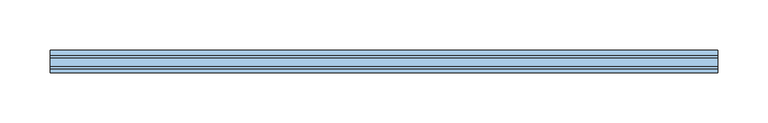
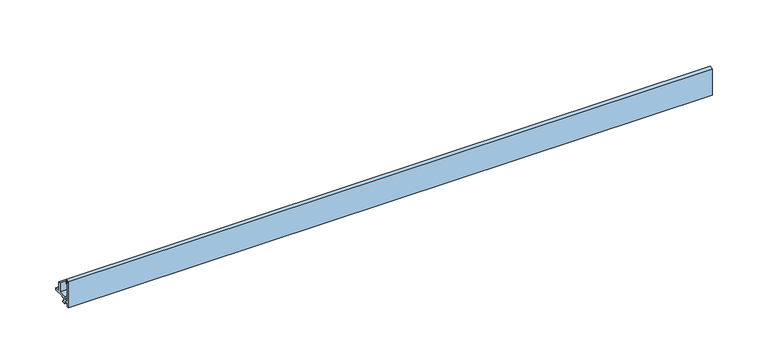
"""IFC4 building model written with IfcOpenShell, lengths in millimetres: window geometry, NLRS_30_WIN_aanslagprofiel_sh_gen_TOBA-JM : aanslagprofiel."""

from ifc_helpers import new_model, si_unit, frame, origin, place, context, project, spatial, polyline, outline, extrude, source, transform, mapped, element, save


def window_6d7f6df3(model_context):
    return source(origin(), model_context, "Body", "SweptSolid", [
        extrude(outline(polyline([(0.0, -5.5), (0.0, 23.0), (3.5, 24.0), (3.5, 22.0), (2.5, 22.0), (2.5, 22.8571429), (1.0, 22.4285715), (1.0, 20.4285715), (2.5, 20.0), (2.5, 20.8571429), (3.5, 20.8571429), (3.5, 18.8571429), (2.0, 18.8571429), (2.0, 0.0), (6.4724099, 0.0), (6.4724099, 3.0), (14.8724099, 3.0), (14.8724099, 13.0), (16.8724099, 13.0), (16.8724099, 3.0), (22.4724099, 3.0), (22.4724099, 1.0), (10.9724099, 1.0), (10.9724099, 0.0), (9.9724099, 0.0), (9.9724099, 1.0), (7.9724099, 1.0), (7.9724099, -3.5), (9.9724099, -3.5), (9.9724099, -5.0), (6.4724099, -5.0), (6.4724099, -1.5), (2.0, -1.5), (2.0, -5.5), (0.0, -5.5)])), frame((-333.0, 0.0, 0.0), z_axis=(1.0, 0.0, 0.0), x_axis=(0.0, 1.0, 0.0)), (0.0, 0.0, 1.0), 666.0),
    ])


if __name__ == "__main__":
    model = new_model("IFC4")
    model_context = context("Model", 3, world=origin())
    ifc_project = project(units=[si_unit("LENGTHUNIT", "METRE", prefix="MILLI")], contexts=[model_context])
    site = spatial("IfcSite", under=ifc_project)
    building = spatial("IfcBuilding", under=site)
    placement = place(None, origin())
    window_shape = window_6d7f6df3(model_context)
    element("IfcWindow", 1, ObjectType="NLRS_30_WIN_aanslagprofiel_sh_gen_TOBA-JM : aanslagprofiel", at=placement, inside=building, context=model_context, shape_type="MappedRepresentation", body=[
        mapped(window_shape, transform((0.0, 0.0, 0.0), x_axis=(1.0, 0.0, 0.0), y_axis=(0.0, 1.0, 0.0), z_axis=(0.0, 0.0, 1.0))),
    ])
    save(model, "model.ifc")
